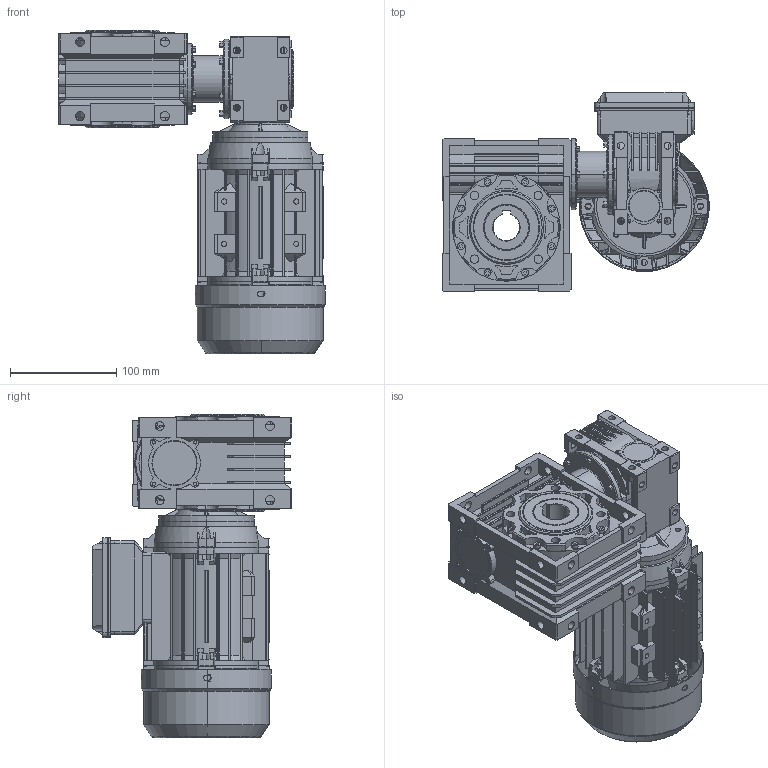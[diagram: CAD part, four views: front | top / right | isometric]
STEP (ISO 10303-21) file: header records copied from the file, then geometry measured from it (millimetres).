
FILE_DESCRIPTION (( 'STEP AP214' ), '1' );
FILE_NAME ('CMRV050-030-MX63.STEP', '2019-08-12T12:02:51', ( '' ), ( '' ), 'SwSTEP 2.0', 'SolidWorks 2012', '' );
FILE_SCHEMA (( 'AUTOMOTIVE_DESIGN' ));
Length unit declared in the file: millimetre
Products named in the file (18): L黤terfl黦el_MS63; Klemmenkastendeckel_MS63; Klemmnkastenunterteil_MS63; Lüfterhaube_MS63; B-Lagerschild_MS63; B14-Flansch_MS63; Gehäuse_MS63; CMRV050-030-B06; 1_1_2; FCN 030火耳; FCNDK 050火耳; 9_1; 8_1; 6_1; 2_1; 1_1; CMRV050-030-MX63; MX63_B14
Assembly tree (17 placements, depth 3):
  CMRV050-030-MX63
    CMRV050-030-B06
      1_1
      2_1
      6_1
      8_1
      9_1
      FCNDK 050火耳
      FCN 030火耳
      1_1_2
    MX63_B14
      Gehäuse_MS63
      B14-Flansch_MS63
      B-Lagerschild_MS63
      Lüfterhaube_MS63
      Klemmnkastenunterteil_MS63
      Klemmenkastendeckel_MS63
      L黤terfl黦el_MS63
Bounding box: 251.3 x 188 x 305 mm (x, y, z)
Volume: 2101385.6 mm3; surface area: 678542.3 mm2
Topology: 15 solids, 17 shells, 3036 faces, 8182 edges, 5354 vertices
Faces by surface type: plane 1693, cylinder 1079, cone 183, bspline 81
Entity records: 100053 total; most frequent: CARTESIAN_POINT 22330, ORIENTED_EDGE 16356, DIRECTION 15759, EDGE_CURVE 8178, VERTEX_POINT 5354, AXIS2_PLACEMENT_3D 5343, VECTOR 5073, LINE 5073
